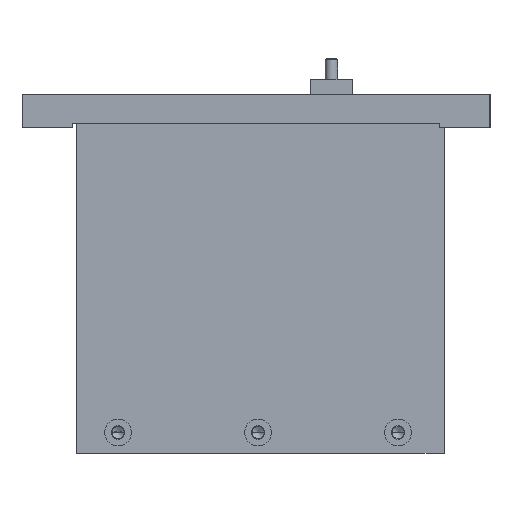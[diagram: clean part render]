
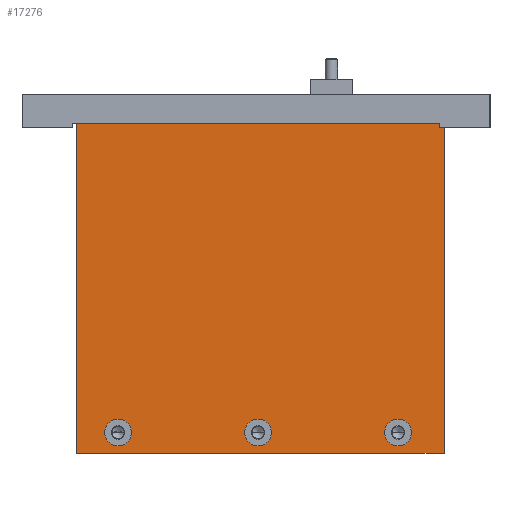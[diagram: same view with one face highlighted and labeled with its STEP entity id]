
A CAD part, front view. The second image highlights one B-rep face of the part: STEP entity #17276.
In plain terms, the highlighted planar face has unit normal (0, -1, 0) as drawn and (0, 1, 0) by its records, which use the part's own axes.
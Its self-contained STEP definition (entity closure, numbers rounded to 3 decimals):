
#1566=CARTESIAN_POINT('',(-34.5,45.,-30.3));
#1567=VERTEX_POINT('',#1566);
#1583=CARTESIAN_POINT('',(-34.5,45.,-36.7));
#1584=VERTEX_POINT('',#1583);
#1591=CARTESIAN_POINT('',(-34.5,45.,-33.5));
#1592=DIRECTION('',(0.0,-1.0,0.0));
#1593=DIRECTION('',(0.0,0.0,1.0));
#1594=AXIS2_PLACEMENT_3D('',#1591,#1592,#1593);
#1595=CIRCLE('',#1594,3.2);
#1596=EDGE_CURVE('',#1567,#1584,#1595,.T.);
#1650=CARTESIAN_POINT('',(-34.5,45.,3.2));
#1651=VERTEX_POINT('',#1650);
#1667=CARTESIAN_POINT('',(-34.5,45.,-3.2));
#1668=VERTEX_POINT('',#1667);
#1675=CARTESIAN_POINT('',(-34.5,45.,0.));
#1676=DIRECTION('',(0.0,-1.0,0.0));
#1677=DIRECTION('',(0.0,0.0,1.0));
#1678=AXIS2_PLACEMENT_3D('',#1675,#1676,#1677);
#1679=CIRCLE('',#1678,3.2);
#1680=EDGE_CURVE('',#1651,#1668,#1679,.T.);
#1734=CARTESIAN_POINT('',(-34.5,45.0,36.7));
#1735=VERTEX_POINT('',#1734);
#1751=CARTESIAN_POINT('',(-34.5,45.0,30.3));
#1752=VERTEX_POINT('',#1751);
#1759=CARTESIAN_POINT('',(-34.5,45.0,33.5));
#1760=DIRECTION('',(0.0,-1.0,0.0));
#1761=DIRECTION('',(0.0,0.0,1.0));
#1762=AXIS2_PLACEMENT_3D('',#1759,#1760,#1761);
#1763=CIRCLE('',#1762,3.2);
#1764=EDGE_CURVE('',#1735,#1752,#1763,.T.);
#2715=CARTESIAN_POINT('',(39.5,45.0,-4.262));
#2716=VERTEX_POINT('',#2715);
#13696=CARTESIAN_POINT('',(-39.5,45.0,44.5));
#13697=VERTEX_POINT('',#13696);
#13704=CARTESIAN_POINT('',(-39.5,45.,-43.5));
#13705=VERTEX_POINT('',#13704);
#13706=CARTESIAN_POINT('',(-39.5,45.0,44.5));
#13707=DIRECTION('',(0.0,0.0,-1.0));
#13708=VECTOR('',#13707,88.0);
#13709=LINE('',#13706,#13708);
#13710=EDGE_CURVE('',#13697,#13705,#13709,.T.);
#16781=CARTESIAN_POINT('',(39.5,45.,32.062));
#16782=VERTEX_POINT('',#16781);
#17133=CARTESIAN_POINT('',(39.5,45.0,44.5));
#17134=VERTEX_POINT('',#17133);
#17141=CARTESIAN_POINT('',(-39.5,45.0,44.5));
#17142=DIRECTION('',(1.0,0.0,0.0));
#17143=VECTOR('',#17142,79.0);
#17144=LINE('',#17141,#17143);
#17145=EDGE_CURVE('',#13697,#17134,#17144,.T.);
#17211=CARTESIAN_POINT('',(-39.5,45.0,41.5));
#17212=DIRECTION('',(0.0,1.0,0.0));
#17213=DIRECTION('',(0.0,0.0,-1.0));
#17214=AXIS2_PLACEMENT_3D('',#17211,#17212,#17213);
#17215=PLANE('',#17214);
#17216=ORIENTED_EDGE('',*,*,#17145,.T.);
#17217=CARTESIAN_POINT('',(39.5,45.,32.062));
#17218=DIRECTION('',(0.0,0.0,1.0));
#17219=VECTOR('',#17218,12.438);
#17220=LINE('',#17217,#17219);
#17221=EDGE_CURVE('',#16782,#17134,#17220,.T.);
#17222=ORIENTED_EDGE('',*,*,#17221,.F.);
#17223=CARTESIAN_POINT('',(39.5,45.0,-4.262));
#17224=DIRECTION('',(0.0,0.0,1.0));
#17225=VECTOR('',#17224,36.324);
#17226=LINE('',#17223,#17225);
#17227=EDGE_CURVE('',#2716,#16782,#17226,.T.);
#17228=ORIENTED_EDGE('',*,*,#17227,.F.);
#17229=CARTESIAN_POINT('',(39.5,45.,-43.5));
#17230=VERTEX_POINT('',#17229);
#17231=CARTESIAN_POINT('',(39.5,45.,-43.5));
#17232=DIRECTION('',(0.0,0.0,1.0));
#17233=VECTOR('',#17232,39.238);
#17234=LINE('',#17231,#17233);
#17235=EDGE_CURVE('',#17230,#2716,#17234,.T.);
#17236=ORIENTED_EDGE('',*,*,#17235,.F.);
#17237=CARTESIAN_POINT('',(39.5,45.,-43.5));
#17238=DIRECTION('',(-1.0,0.0,0.0));
#17239=VECTOR('',#17238,79.0);
#17240=LINE('',#17237,#17239);
#17241=EDGE_CURVE('',#17230,#13705,#17240,.T.);
#17242=ORIENTED_EDGE('',*,*,#17241,.T.);
#17243=ORIENTED_EDGE('',*,*,#13710,.F.);
#17244=EDGE_LOOP('',(#17216,#17222,#17228,#17236,#17242,#17243));
#17245=FACE_OUTER_BOUND('',#17244,.T.);
#17246=ORIENTED_EDGE('',*,*,#1764,.T.);
#17247=CARTESIAN_POINT('',(-34.5,45.0,33.5));
#17248=DIRECTION('',(0.0,-1.0,0.0));
#17249=DIRECTION('',(0.0,0.0,1.0));
#17250=AXIS2_PLACEMENT_3D('',#17247,#17248,#17249);
#17251=CIRCLE('',#17250,3.2);
#17252=EDGE_CURVE('',#1752,#1735,#17251,.T.);
#17253=ORIENTED_EDGE('',*,*,#17252,.T.);
#17254=EDGE_LOOP('',(#17246,#17253));
#17255=FACE_BOUND('',#17254,.T.);
#17256=ORIENTED_EDGE('',*,*,#1680,.T.);
#17257=CARTESIAN_POINT('',(-34.5,45.,0.));
#17258=DIRECTION('',(0.0,-1.0,0.0));
#17259=DIRECTION('',(0.0,0.0,1.0));
#17260=AXIS2_PLACEMENT_3D('',#17257,#17258,#17259);
#17261=CIRCLE('',#17260,3.2);
#17262=EDGE_CURVE('',#1668,#1651,#17261,.T.);
#17263=ORIENTED_EDGE('',*,*,#17262,.T.);
#17264=EDGE_LOOP('',(#17256,#17263));
#17265=FACE_BOUND('',#17264,.T.);
#17266=ORIENTED_EDGE('',*,*,#1596,.T.);
#17267=CARTESIAN_POINT('',(-34.5,45.,-33.5));
#17268=DIRECTION('',(0.0,-1.0,0.0));
#17269=DIRECTION('',(0.0,0.0,1.0));
#17270=AXIS2_PLACEMENT_3D('',#17267,#17268,#17269);
#17271=CIRCLE('',#17270,3.2);
#17272=EDGE_CURVE('',#1584,#1567,#17271,.T.);
#17273=ORIENTED_EDGE('',*,*,#17272,.T.);
#17274=EDGE_LOOP('',(#17266,#17273));
#17275=FACE_BOUND('',#17274,.T.);
#17276=ADVANCED_FACE('',(#17245,#17255,#17265,#17275),#17215,.T.);
